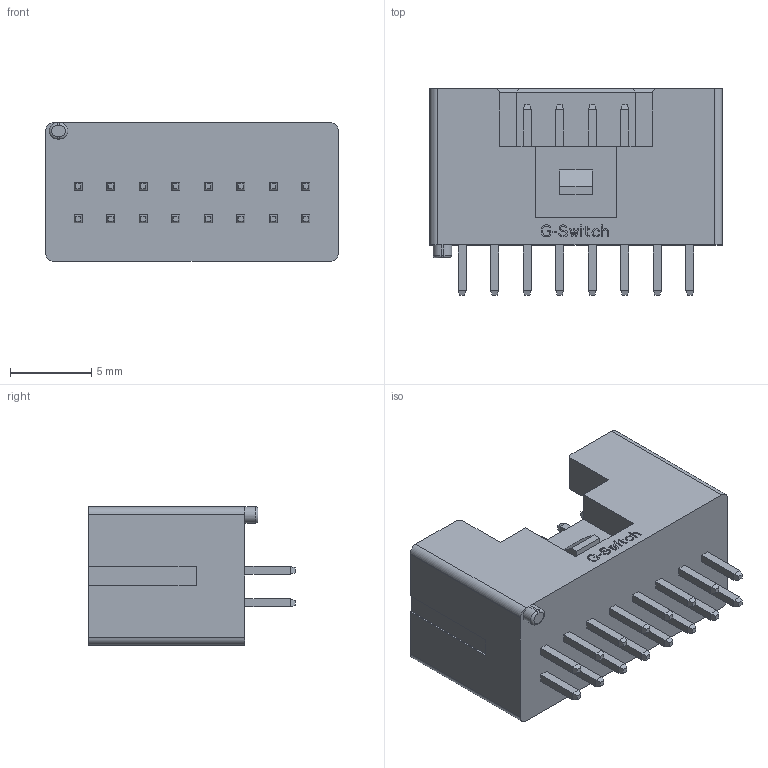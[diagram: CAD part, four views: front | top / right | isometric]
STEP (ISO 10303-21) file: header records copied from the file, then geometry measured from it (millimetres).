
FILE_DESCRIPTION((''),'2;1');
FILE_NAME('16','2026-05-27T',('WYH'),(''),'PRO/ENGINEER BY PARAMETRIC TECHNOLOGY CORPORATION, 2013040','PRO/ENGINEER BY PARAMETRIC TECHNOLOGY CORPORATION, 2013040','');
FILE_SCHEMA(('CONFIG_CONTROL_DESIGN'));
Length unit declared in the file: millimetre
Products named in the file (1): 16
Bounding box: 18 x 12.7 x 8.5 mm (x, y, z)
Volume: 673 mm3; surface area: 1453.9 mm2
Topology: 1 solids, 1 shells, 595 faces, 1495 edges, 946 vertices
Faces by surface type: plane 585, cylinder 8, torus 2
Entity records: 17269 total; most frequent: CARTESIAN_POINT 3036, ORIENTED_EDGE 2990, DIRECTION 2703, EDGE_CURVE 1495, VECTOR 1477, LINE 1477, VERTEX_POINT 946, EDGE_LOOP 639
